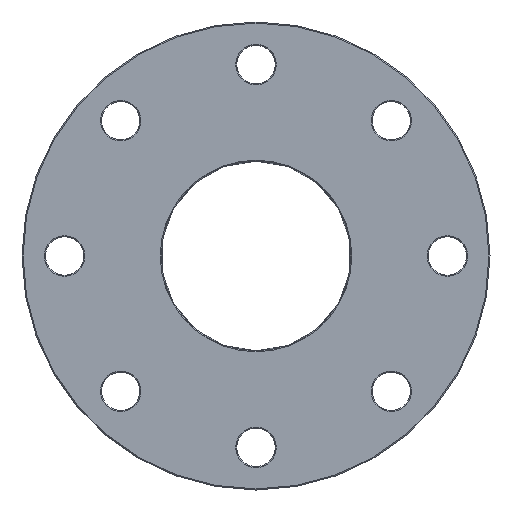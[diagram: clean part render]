
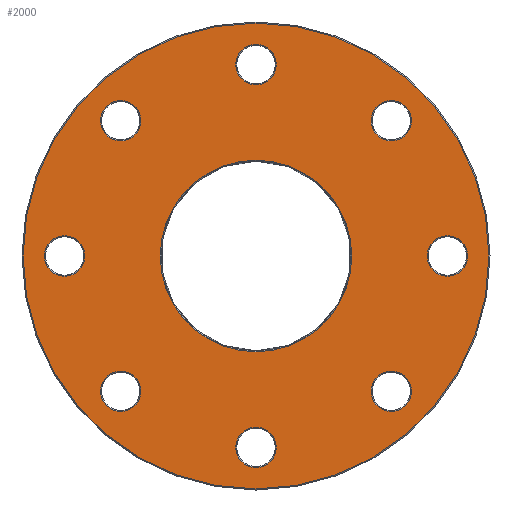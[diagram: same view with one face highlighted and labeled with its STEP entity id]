
A CAD part, front view. The second image highlights one B-rep face of the part: STEP entity #2000.
In plain terms, the highlighted planar face has unit normal (0, -1, 0).
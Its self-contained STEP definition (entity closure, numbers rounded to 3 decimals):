
#646=CARTESIAN_POINT('',(0.,-0.072,0.));
#647=DIRECTION('',(0.,-1.,0.));
#648=DIRECTION('',(-1.,0.,0.));
#649=AXIS2_PLACEMENT_3D('',#646,#647,#648);
#654=CARTESIAN_POINT('',(0.,-0.072,0.));
#655=DIRECTION('',(0.,-1.,0.));
#656=DIRECTION('',(1.,0.,0.));
#657=AXIS2_PLACEMENT_3D('',#654,#655,#656);
#662=CARTESIAN_POINT('',(0.,-0.072,0.));
#663=DIRECTION('',(0.,1.,0.));
#664=DIRECTION('',(1.,0.,0.));
#665=AXIS2_PLACEMENT_3D('',#662,#663,#664);
#670=CARTESIAN_POINT('',(0.,-0.072,0.));
#671=DIRECTION('',(0.,1.,0.));
#672=DIRECTION('',(-1.,0.,0.));
#673=AXIS2_PLACEMENT_3D('',#670,#671,#672);
#678=CARTESIAN_POINT('',(-63.64,-0.072,63.64));
#679=DIRECTION('',(0.,1.,0.));
#680=DIRECTION('',(0.,0.,1.));
#681=AXIS2_PLACEMENT_3D('',#678,#679,#680);
#686=CARTESIAN_POINT('',(-63.64,-0.072,63.64));
#687=DIRECTION('',(0.,1.,0.));
#688=DIRECTION('',(0.,0.,-1.));
#689=AXIS2_PLACEMENT_3D('',#686,#687,#688);
#694=CARTESIAN_POINT('',(0.,-0.072,90.));
#695=DIRECTION('',(0.,1.,0.));
#696=DIRECTION('',(0.707,0.,0.707));
#697=AXIS2_PLACEMENT_3D('',#694,#695,#696);
#702=CARTESIAN_POINT('',(0.,-0.072,90.));
#703=DIRECTION('',(0.,1.,0.));
#704=DIRECTION('',(-0.707,0.,-0.707));
#705=AXIS2_PLACEMENT_3D('',#702,#703,#704);
#710=CARTESIAN_POINT('',(63.64,-0.072,63.64));
#711=DIRECTION('',(0.,1.,0.));
#712=DIRECTION('',(-1.,0.,0.));
#713=AXIS2_PLACEMENT_3D('',#710,#711,#712);
#718=CARTESIAN_POINT('',(63.64,-0.072,63.64));
#719=DIRECTION('',(0.,1.,0.));
#720=DIRECTION('',(1.,0.,0.));
#721=AXIS2_PLACEMENT_3D('',#718,#719,#720);
#726=CARTESIAN_POINT('',(90.,-0.072,0.));
#727=DIRECTION('',(0.,1.,0.));
#728=DIRECTION('',(0.707,0.,-0.707));
#729=AXIS2_PLACEMENT_3D('',#726,#727,#728);
#734=CARTESIAN_POINT('',(90.,-0.072,0.));
#735=DIRECTION('',(0.,1.,0.));
#736=DIRECTION('',(-0.707,0.,0.707));
#737=AXIS2_PLACEMENT_3D('',#734,#735,#736);
#742=CARTESIAN_POINT('',(63.64,-0.072,-63.64));
#743=DIRECTION('',(0.,1.,0.));
#744=DIRECTION('',(0.,0.,-1.));
#745=AXIS2_PLACEMENT_3D('',#742,#743,#744);
#750=CARTESIAN_POINT('',(63.64,-0.072,-63.64));
#751=DIRECTION('',(0.,1.,0.));
#752=DIRECTION('',(0.,0.,1.));
#753=AXIS2_PLACEMENT_3D('',#750,#751,#752);
#758=CARTESIAN_POINT('',(0.,-0.072,-90.));
#759=DIRECTION('',(0.,1.,0.));
#760=DIRECTION('',(0.707,0.,0.707));
#761=AXIS2_PLACEMENT_3D('',#758,#759,#760);
#766=CARTESIAN_POINT('',(0.,-0.072,-90.));
#767=DIRECTION('',(0.,1.,0.));
#768=DIRECTION('',(-0.707,0.,-0.707));
#769=AXIS2_PLACEMENT_3D('',#766,#767,#768);
#774=CARTESIAN_POINT('',(-63.64,-0.072,-63.64));
#775=DIRECTION('',(0.,1.,0.));
#776=DIRECTION('',(-1.,0.,0.));
#777=AXIS2_PLACEMENT_3D('',#774,#775,#776);
#782=CARTESIAN_POINT('',(-63.64,-0.072,-63.64));
#783=DIRECTION('',(0.,1.,0.));
#784=DIRECTION('',(1.,0.,0.));
#785=AXIS2_PLACEMENT_3D('',#782,#783,#784);
#790=CARTESIAN_POINT('',(-90.,-0.072,0.));
#791=DIRECTION('',(0.,1.,0.));
#792=DIRECTION('',(-0.707,0.,0.707));
#793=AXIS2_PLACEMENT_3D('',#790,#791,#792);
#798=CARTESIAN_POINT('',(-90.,-0.072,0.));
#799=DIRECTION('',(0.,1.,0.));
#800=DIRECTION('',(0.707,0.,-0.707));
#801=AXIS2_PLACEMENT_3D('',#798,#799,#800);
#1393=CARTESIAN_POINT('',(-109.5,-0.072,0.));
#1394=CARTESIAN_POINT('',(109.5,-0.072,0.));
#1395=VERTEX_POINT('',#1393);
#1396=VERTEX_POINT('',#1394);
#1401=CARTESIAN_POINT('',(45.023,-0.072,0.));
#1402=CARTESIAN_POINT('',(-45.023,-0.072,0.));
#1403=VERTEX_POINT('',#1401);
#1404=VERTEX_POINT('',#1402);
#1409=CARTESIAN_POINT('',(-63.64,-0.072,73.14));
#1410=CARTESIAN_POINT('',(-63.64,-0.072,54.14));
#1411=VERTEX_POINT('',#1409);
#1412=VERTEX_POINT('',#1410);
#1417=CARTESIAN_POINT('',(6.718,-0.072,96.718));
#1418=CARTESIAN_POINT('',(-6.718,-0.072,83.282));
#1419=VERTEX_POINT('',#1417);
#1420=VERTEX_POINT('',#1418);
#1425=CARTESIAN_POINT('',(54.14,-0.072,63.64));
#1426=CARTESIAN_POINT('',(73.14,-0.072,63.64));
#1427=VERTEX_POINT('',#1425);
#1428=VERTEX_POINT('',#1426);
#1433=CARTESIAN_POINT('',(96.718,-0.072,-6.718));
#1434=CARTESIAN_POINT('',(83.282,-0.072,6.718));
#1435=VERTEX_POINT('',#1433);
#1436=VERTEX_POINT('',#1434);
#1441=CARTESIAN_POINT('',(63.64,-0.072,-73.14));
#1442=CARTESIAN_POINT('',(63.64,-0.072,-54.14));
#1443=VERTEX_POINT('',#1441);
#1444=VERTEX_POINT('',#1442);
#1449=CARTESIAN_POINT('',(6.718,-0.072,-83.282));
#1450=CARTESIAN_POINT('',(-6.718,-0.072,-96.718));
#1451=VERTEX_POINT('',#1449);
#1452=VERTEX_POINT('',#1450);
#1457=CARTESIAN_POINT('',(-73.14,-0.072,-63.64));
#1458=CARTESIAN_POINT('',(-54.14,-0.072,-63.64));
#1459=VERTEX_POINT('',#1457);
#1460=VERTEX_POINT('',#1458);
#1465=CARTESIAN_POINT('',(-96.718,-0.072,6.718));
#1466=CARTESIAN_POINT('',(-83.282,-0.072,-6.718));
#1467=VERTEX_POINT('',#1465);
#1468=VERTEX_POINT('',#1466);
#1936=CARTESIAN_POINT('',(0.,-0.072,0.));
#1937=DIRECTION('',(0.,1.,0.));
#1938=DIRECTION('',(-1.,0.,0.));
#1939=AXIS2_PLACEMENT_3D('',#1936,#1937,#1938);
#1940=PLANE('',#1939);
#1942=ORIENTED_EDGE('',*,*,#1941,.F.);
#1944=ORIENTED_EDGE('',*,*,#1943,.F.);
#1945=EDGE_LOOP('',(#1942,#1944));
#1946=FACE_OUTER_BOUND('',#1945,.F.);
#1948=ORIENTED_EDGE('',*,*,#1947,.F.);
#1949=ORIENTED_EDGE('',*,*,#1926,.F.);
#1950=EDGE_LOOP('',(#1948,#1949));
#1951=FACE_BOUND('',#1950,.F.);
#1953=ORIENTED_EDGE('',*,*,#1952,.F.);
#1955=ORIENTED_EDGE('',*,*,#1954,.F.);
#1956=EDGE_LOOP('',(#1953,#1955));
#1957=FACE_BOUND('',#1956,.F.);
#1959=ORIENTED_EDGE('',*,*,#1958,.F.);
#1961=ORIENTED_EDGE('',*,*,#1960,.F.);
#1962=EDGE_LOOP('',(#1959,#1961));
#1963=FACE_BOUND('',#1962,.F.);
#1965=ORIENTED_EDGE('',*,*,#1964,.F.);
#1967=ORIENTED_EDGE('',*,*,#1966,.F.);
#1968=EDGE_LOOP('',(#1965,#1967));
#1969=FACE_BOUND('',#1968,.F.);
#1971=ORIENTED_EDGE('',*,*,#1970,.F.);
#1973=ORIENTED_EDGE('',*,*,#1972,.F.);
#1974=EDGE_LOOP('',(#1971,#1973));
#1975=FACE_BOUND('',#1974,.F.);
#1977=ORIENTED_EDGE('',*,*,#1976,.F.);
#1979=ORIENTED_EDGE('',*,*,#1978,.F.);
#1980=EDGE_LOOP('',(#1977,#1979));
#1981=FACE_BOUND('',#1980,.F.);
#1983=ORIENTED_EDGE('',*,*,#1982,.F.);
#1985=ORIENTED_EDGE('',*,*,#1984,.F.);
#1986=EDGE_LOOP('',(#1983,#1985));
#1987=FACE_BOUND('',#1986,.F.);
#1989=ORIENTED_EDGE('',*,*,#1988,.F.);
#1991=ORIENTED_EDGE('',*,*,#1990,.F.);
#1992=EDGE_LOOP('',(#1989,#1991));
#1993=FACE_BOUND('',#1992,.F.);
#1995=ORIENTED_EDGE('',*,*,#1994,.F.);
#1997=ORIENTED_EDGE('',*,*,#1996,.F.);
#1998=EDGE_LOOP('',(#1995,#1997));
#1999=FACE_BOUND('',#1998,.F.);
#650=CIRCLE('',#649,109.5);
#658=CIRCLE('',#657,109.5);
#666=CIRCLE('',#665,45.023);
#674=CIRCLE('',#673,45.023);
#682=CIRCLE('',#681,9.5);
#690=CIRCLE('',#689,9.5);
#698=CIRCLE('',#697,9.5);
#706=CIRCLE('',#705,9.5);
#714=CIRCLE('',#713,9.5);
#722=CIRCLE('',#721,9.5);
#730=CIRCLE('',#729,9.5);
#738=CIRCLE('',#737,9.5);
#746=CIRCLE('',#745,9.5);
#754=CIRCLE('',#753,9.5);
#762=CIRCLE('',#761,9.5);
#770=CIRCLE('',#769,9.5);
#778=CIRCLE('',#777,9.5);
#786=CIRCLE('',#785,9.5);
#794=CIRCLE('',#793,9.5);
#802=CIRCLE('',#801,9.5);
#1926=EDGE_CURVE('',#1404,#1403,#674,.T.);
#1941=EDGE_CURVE('',#1395,#1396,#650,.T.);
#1943=EDGE_CURVE('',#1396,#1395,#658,.T.);
#1947=EDGE_CURVE('',#1403,#1404,#666,.T.);
#1952=EDGE_CURVE('',#1411,#1412,#682,.T.);
#1954=EDGE_CURVE('',#1412,#1411,#690,.T.);
#1958=EDGE_CURVE('',#1419,#1420,#698,.T.);
#1960=EDGE_CURVE('',#1420,#1419,#706,.T.);
#1964=EDGE_CURVE('',#1427,#1428,#714,.T.);
#1966=EDGE_CURVE('',#1428,#1427,#722,.T.);
#1970=EDGE_CURVE('',#1435,#1436,#730,.T.);
#1972=EDGE_CURVE('',#1436,#1435,#738,.T.);
#1976=EDGE_CURVE('',#1443,#1444,#746,.T.);
#1978=EDGE_CURVE('',#1444,#1443,#754,.T.);
#1982=EDGE_CURVE('',#1451,#1452,#762,.T.);
#1984=EDGE_CURVE('',#1452,#1451,#770,.T.);
#1988=EDGE_CURVE('',#1459,#1460,#778,.T.);
#1990=EDGE_CURVE('',#1460,#1459,#786,.T.);
#1994=EDGE_CURVE('',#1467,#1468,#794,.T.);
#1996=EDGE_CURVE('',#1468,#1467,#802,.T.);
#2000=ADVANCED_FACE('',(#1946,#1951,#1957,#1963,#1969,#1975,#1981,#1987,#1993,
#1999),#1940,.F.);
